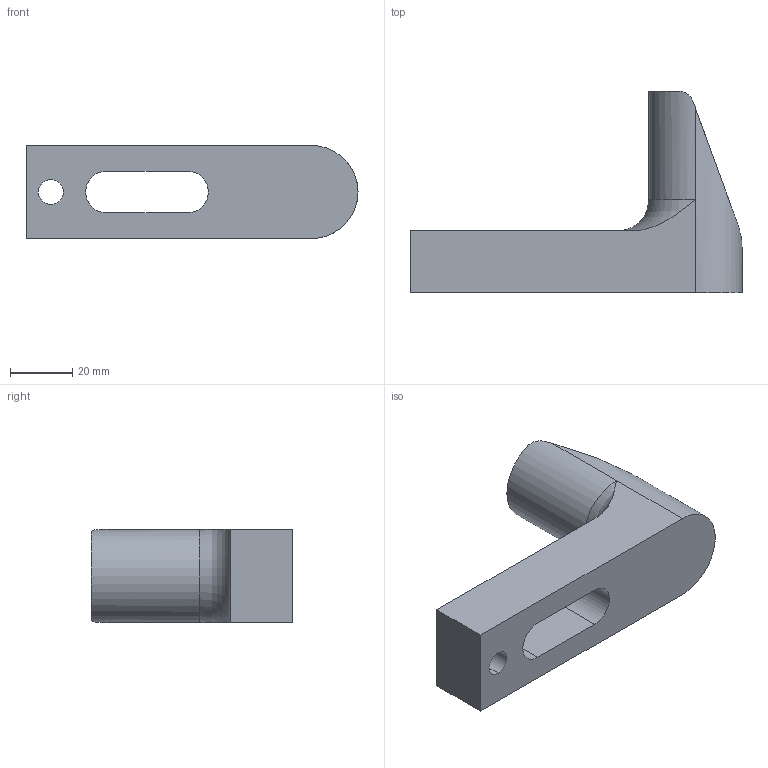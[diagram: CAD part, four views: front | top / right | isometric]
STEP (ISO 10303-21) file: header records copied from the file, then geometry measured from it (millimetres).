
FILE_DESCRIPTION(('CATIA V5 STEP Exchange'),'2;1');
FILE_NAME('C:\Users\Raffaele\Desktop\3D X SITO CF\702-705\65\STEP-2.03\702-2.stp','2019-07-03T14:01:20+00:00',('none'),('none'),'CATIA Version 5 Release 20 GA (IN-10)','CATIA V5 STEP AP203','none');
FILE_SCHEMA(('CONFIG_CONTROL_DESIGN'));
Length unit declared in the file: millimetre
Products named in the file (1): 702-2
Bounding box: 107 x 65 x 30 mm (x, y, z)
Volume: 75640.3 mm3; surface area: 16151.4 mm2
Topology: 1 solids, 1 shells, 18 faces, 52 edges, 36 vertices
Faces by surface type: plane 9, cylinder 8, torus 1
Entity records: 745 total; most frequent: CARTESIAN_POINT 236, ORIENTED_EDGE 104, DIRECTION 77, EDGE_CURVE 52, VERTEX_POINT 36, AXIS2_PLACEMENT_3D 35, VECTOR 25, LINE 25
